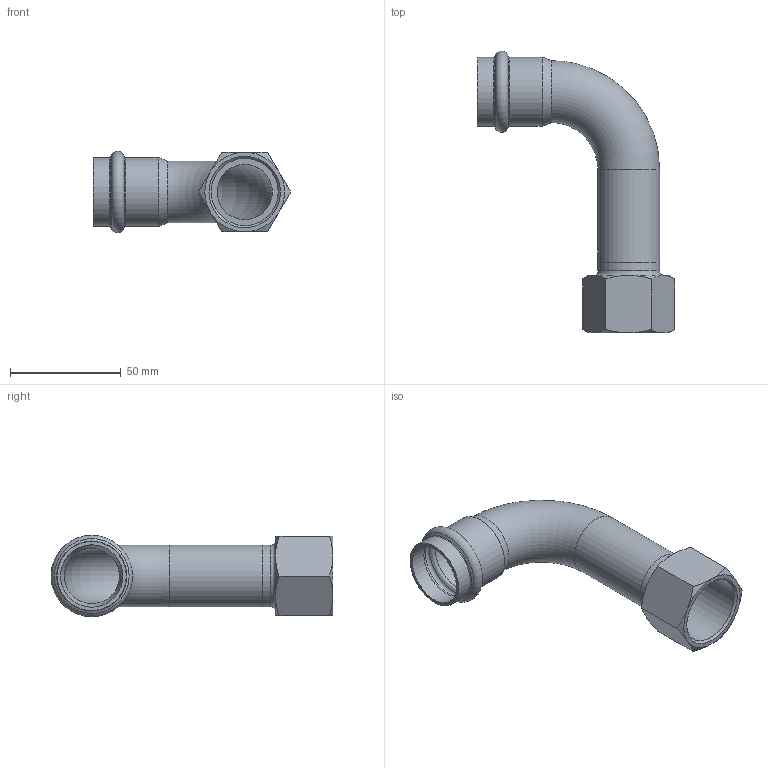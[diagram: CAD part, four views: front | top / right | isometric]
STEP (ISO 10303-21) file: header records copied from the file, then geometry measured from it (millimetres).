
FILE_DESCRIPTION((''),'2;1');
FILE_NAME('G:\Nirosan-Schmiedefeld\Technics\CAD\Bauteile VA\028\69002G281(1).stp','2013-03-18T10:12:56',('herberg'),(''),'Autodesk Inventor 2009','Autodesk Inventor 2009','');
FILE_SCHEMA(('AUTOMOTIVE_DESIGN { 1 0 10303 214 1 1 1 1 }'));
Length unit declared in the file: millimetre
Products named in the file (3): 69002G281(1); 69001A28(1); IG281(1)
Assembly tree (2 placements, depth 2):
  69002G281(1)
    69001A28(1)
    IG281(1)
Bounding box: 89.18 x 127.39 x 36.79 mm (x, y, z)
Volume: 29338 mm3; surface area: 31000.6 mm2
Topology: 2 solids, 2 shells, 47 faces, 97 edges, 56 vertices
Faces by surface type: cone 17, plane 11, bspline 8, cylinder 7, torus 4
Full cylindrical faces by diameter (mm): 25 x1, 28 x2, 28.2 x2, 31.2 x2
Entity records: 1428 total; most frequent: CARTESIAN_POINT 549, DIRECTION 170, ORIENTED_EDGE 140, AXIS2_PLACEMENT_3D 82, EDGE_LOOP 76, EDGE_CURVE 70, VERTEX_POINT 52, FACE_OUTER_BOUND 47
